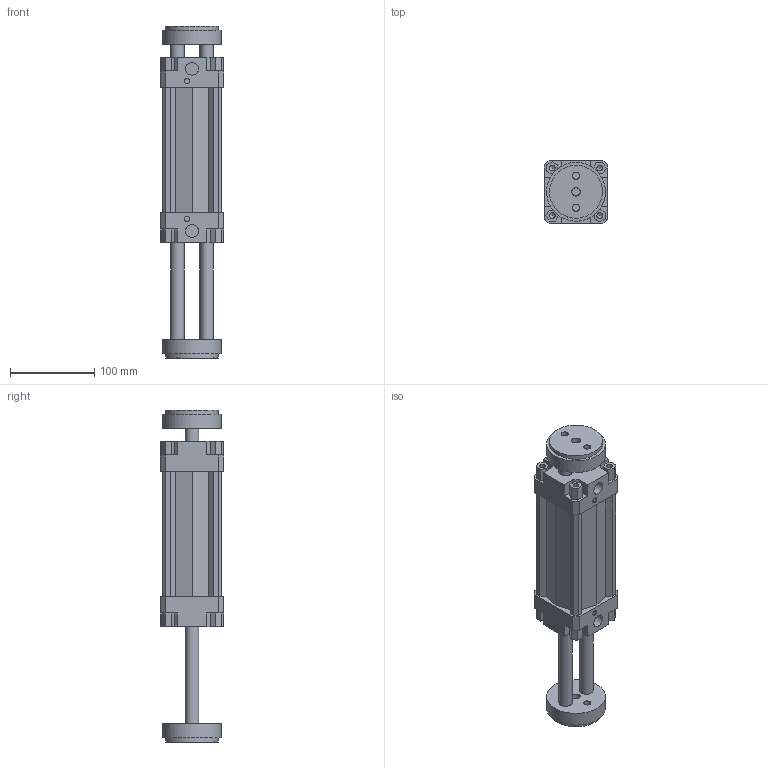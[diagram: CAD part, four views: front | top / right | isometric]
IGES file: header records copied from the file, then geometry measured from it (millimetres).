
Global section: file name: 132#_063_0100_06; native system: Autodesk Inventor 2014; preprocessor: unknown; author: A. Manieri; date: 20161006.155935; units: millimetre
Bounding box: 75 x 75 x 395 mm (x, y, z)
Volume: 948356.6 mm3; surface area: 202933.6 mm2
Topology: 2 solids, 2 shells, 190 faces, 518 edges, 354 vertices
Faces by surface type: bspline 190
